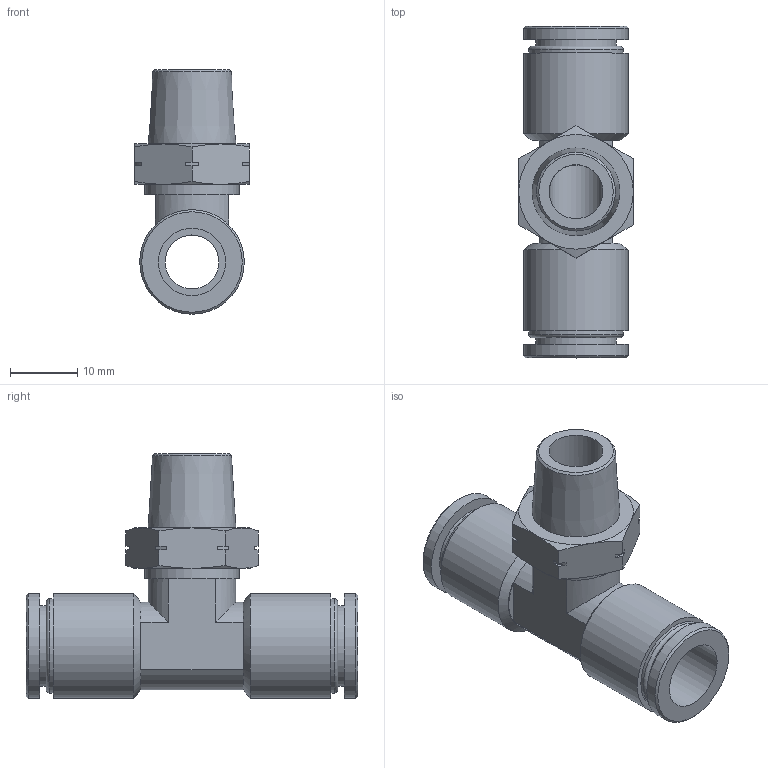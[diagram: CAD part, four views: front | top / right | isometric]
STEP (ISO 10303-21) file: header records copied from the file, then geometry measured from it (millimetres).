
FILE_DESCRIPTION(/* description */ (''),/* implementation_level */ '2;1');
FILE_NAME(/* name */ 'LXH31 0010 N2.stp',/* time_stamp */ '2025-09-16T13:04:10+02:00',/* author */ ('freju'),/* organization */ (''),/* preprocessor_version */ 'ST-DEVELOPER v20.1',/* originating_system */ 'Autodesk Inventor 2026',/* authorisation */ '');
FILE_SCHEMA (('AUTOMOTIVE_DESIGN { 1 0 10303 214 3 1 1 }'));
Length unit declared in the file: millimetre
Products named in the file (1): LXH31 0010 N2
Bounding box: 17 x 49.2 x 36.25 mm (x, y, z)
Volume: 6748.2 mm3; surface area: 6108 mm2
Topology: 1 solids, 1 shells, 86 faces, 199 edges, 125 vertices
Faces by surface type: plane 38, cylinder 28, cone 18, torus 2
Full cylindrical faces by diameter (mm): 8 x2, 10 x2, 12 x2, 14 x3, 15.5 x4
Entity records: 2469 total; most frequent: CARTESIAN_POINT 459, DIRECTION 432, ORIENTED_EDGE 398, EDGE_CURVE 199, AXIS2_PLACEMENT_3D 170, VERTEX_POINT 125, EDGE_LOOP 100, LINE 92
